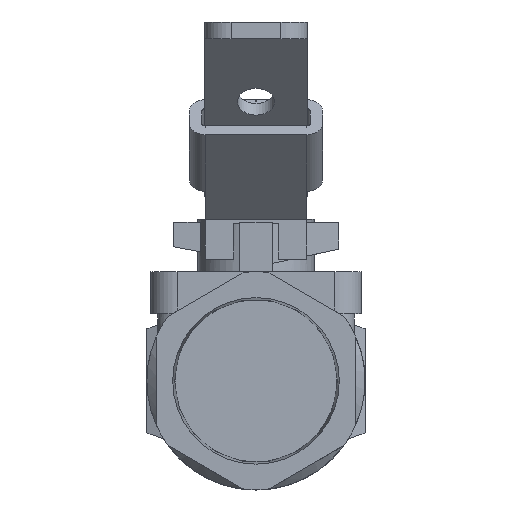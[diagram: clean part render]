
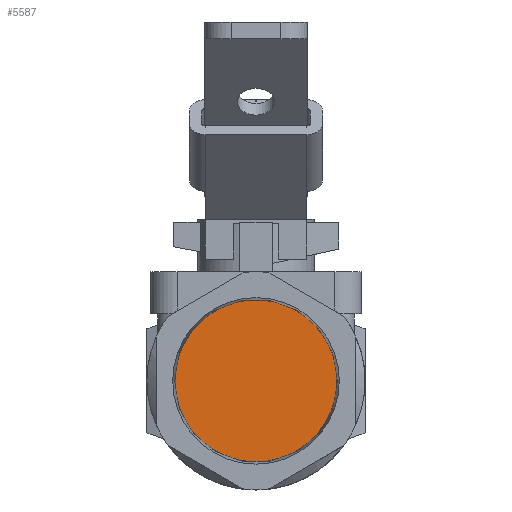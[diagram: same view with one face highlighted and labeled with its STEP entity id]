
A CAD part, left-side view. The second image highlights one B-rep face of the part: STEP entity #5587.
In plain terms, the highlighted planar face has unit normal (-1, 0, 0).
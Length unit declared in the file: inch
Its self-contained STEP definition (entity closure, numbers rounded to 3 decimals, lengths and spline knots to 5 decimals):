
#5571=CARTESIAN_POINT('',(0.6809,0.38521,0.0));
#5572=DIRECTION('',(1.0,0.0,0.0));
#5573=DIRECTION('',(0.0,-1.0,0.0));
#5574=AXIS2_PLACEMENT_3D('',#5571,#5572,#5573);
#5575=PLANE('',#5574);
#5576=CARTESIAN_POINT('',(0.6809,0.63414,0.4375));
#5577=VERTEX_POINT('',#5576);
#5578=CARTESIAN_POINT('',(0.6809,0.0,0.0));
#5579=DIRECTION('',(-1.0,0.0,0.0));
#5580=DIRECTION('',(0.0,1.0,0.0));
#5581=AXIS2_PLACEMENT_3D('',#5578,#5579,#5580);
#5582=CIRCLE('',#5581,0.77042);
#5583=EDGE_CURVE('',#5577,#5577,#5582,.T.);
#5584=ORIENTED_EDGE('',*,*,#5583,.T.);
#5585=EDGE_LOOP('',(#5584));
#5586=FACE_OUTER_BOUND('',#5585,.T.);
#5587=ADVANCED_FACE('',(#5586),#5575,.F.);
